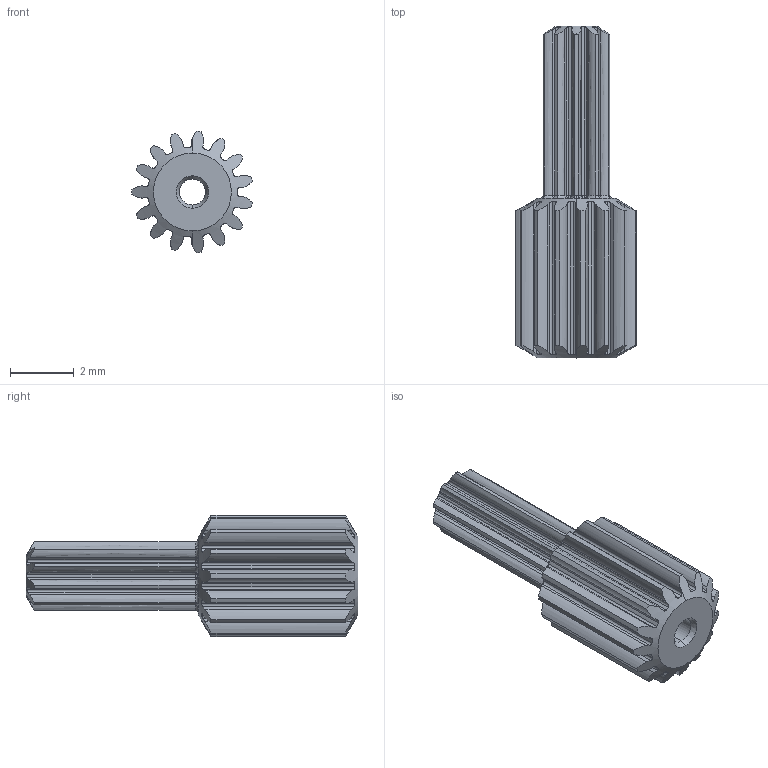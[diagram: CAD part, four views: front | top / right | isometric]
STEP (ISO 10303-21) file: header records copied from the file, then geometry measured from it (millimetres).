
FILE_DESCRIPTION (( 'STEP AP214' ), '1' );
FILE_NAME ('TRL-0052-A.STEP', '2021-06-28T15:36:02', ( '' ), ( '' ), 'SwSTEP 2.0', 'SolidWorks 2016', '' );
FILE_SCHEMA (( 'AUTOMOTIVE_DESIGN' ));
Length unit declared in the file: millimetre
Products named in the file (1): TRL-0052-A
Bounding box: 3.78 x 10.4 x 3.8 mm (x, y, z)
Volume: 49.1 mm3; surface area: 197.9 mm2
Topology: 1 solids, 1 shells, 299 faces, 801 edges, 485 vertices
Faces by surface type: cylinder 123, bspline 90, plane 53, torus 23, cone 10
Entity records: 15149 total; most frequent: CARTESIAN_POINT 8492, ORIENTED_EDGE 1562, DIRECTION 1121, EDGE_CURVE 781, VERTEX_POINT 485, AXIS2_PLACEMENT_3D 394, VECTOR 333, LINE 333
